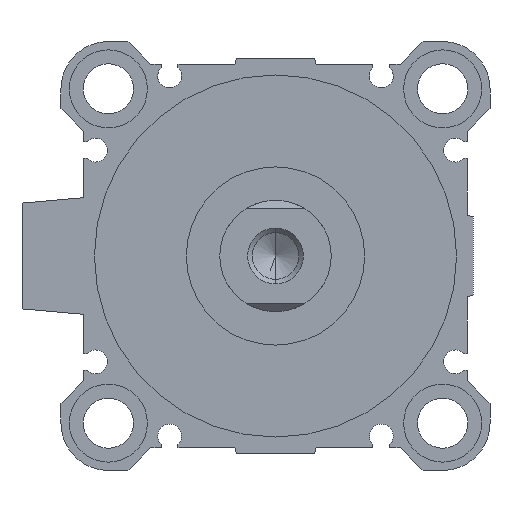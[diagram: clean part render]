
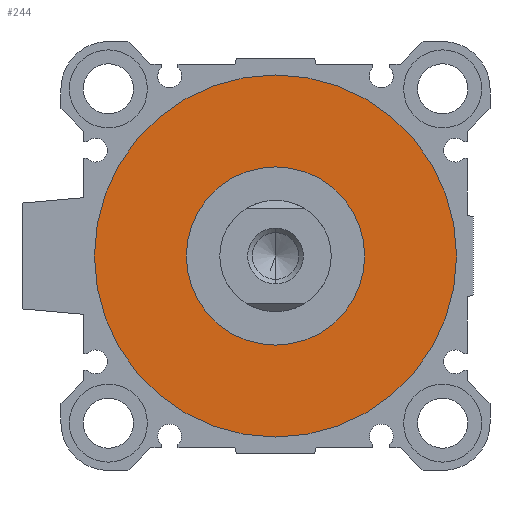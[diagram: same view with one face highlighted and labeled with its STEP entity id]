
A CAD part, left-side view. The second image highlights one B-rep face of the part: STEP entity #244.
In plain terms, the highlighted planar face has unit normal (-1, 0, 0).
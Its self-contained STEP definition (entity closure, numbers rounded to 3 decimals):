
#174 = CIRCLE ( 'NONE', #785, 16. ) ;
#244 = ADVANCED_FACE ( 'NONE', ( #1116, #4974 ), #1195, .F. ) ;
#298 = EDGE_CURVE ( 'NONE', #1267, #4576, #2254, .T. ) ;
#309 = ORIENTED_EDGE ( 'NONE', *, *, #487, .F. ) ;
#409 = ORIENTED_EDGE ( 'NONE', *, *, #298, .F. ) ;
#487 = EDGE_CURVE ( 'NONE', #4576, #1267, #1880, .T. ) ;
#614 = CARTESIAN_POINT ( 'NONE',  ( 4., 0., -16. ) ) ;
#647 = AXIS2_PLACEMENT_3D ( 'NONE', #5005, #1257, #4601 ) ;
#735 = EDGE_LOOP ( 'NONE', ( #309, #409 ) ) ;
#785 = AXIS2_PLACEMENT_3D ( 'NONE', #1578, #4506, #4429 ) ;
#1116 = FACE_OUTER_BOUND ( 'NONE', #735, .T. ) ;
#1142 = DIRECTION ( 'NONE',  ( 1., 0., 0. ) ) ;
#1167 = AXIS2_PLACEMENT_3D ( 'NONE', #2442, #4114, #5377 ) ;
#1195 = PLANE ( 'NONE',  #4460 ) ;
#1257 = DIRECTION ( 'NONE',  ( 1., 0., 0. ) ) ;
#1267 = VERTEX_POINT ( 'NONE', #4630 ) ;
#1487 = EDGE_CURVE ( 'NONE', #1532, #3942, #174, .T. ) ;
#1531 = CARTESIAN_POINT ( 'NONE',  ( 4., 0., 0. ) ) ;
#1532 = VERTEX_POINT ( 'NONE', #5355 ) ;
#1578 = CARTESIAN_POINT ( 'NONE',  ( 4., 0., 0. ) ) ;
#1764 = ORIENTED_EDGE ( 'NONE', *, *, #1487, .T. ) ;
#1880 = CIRCLE ( 'NONE', #647, 32.5 ) ;
#2053 = CARTESIAN_POINT ( 'NONE',  ( 4., 0., 0. ) ) ;
#2116 = EDGE_CURVE ( 'NONE', #3942, #1532, #4232, .T. ) ;
#2254 = CIRCLE ( 'NONE', #3927, 32.5 ) ;
#2379 = DIRECTION ( 'NONE',  ( 0., 0., -1. ) ) ;
#2442 = CARTESIAN_POINT ( 'NONE',  ( 4., 0., 0. ) ) ;
#2863 = DIRECTION ( 'NONE',  ( 1., 0., 0. ) ) ;
#3348 = ORIENTED_EDGE ( 'NONE', *, *, #2116, .T. ) ;
#3927 = AXIS2_PLACEMENT_3D ( 'NONE', #1531, #1142, #2379 ) ;
#3942 = VERTEX_POINT ( 'NONE', #614 ) ;
#4114 = DIRECTION ( 'NONE',  ( 1., 0., 0. ) ) ;
#4232 = CIRCLE ( 'NONE', #1167, 16. ) ;
#4429 = DIRECTION ( 'NONE',  ( 0., 0., -1. ) ) ;
#4460 = AXIS2_PLACEMENT_3D ( 'NONE', #2053, #2863, #4537 ) ;
#4506 = DIRECTION ( 'NONE',  ( 1., 0., 0. ) ) ;
#4537 = DIRECTION ( 'NONE',  ( 0., 1., 0. ) ) ;
#4576 = VERTEX_POINT ( 'NONE', #5378 ) ;
#4601 = DIRECTION ( 'NONE',  ( 0., 0., -1. ) ) ;
#4630 = CARTESIAN_POINT ( 'NONE',  ( 4., 0., -32.5 ) ) ;
#4778 = EDGE_LOOP ( 'NONE', ( #1764, #3348 ) ) ;
#4974 = FACE_BOUND ( 'NONE', #4778, .T. ) ;
#5005 = CARTESIAN_POINT ( 'NONE',  ( 4., 0., 0. ) ) ;
#5355 = CARTESIAN_POINT ( 'NONE',  ( 4., 0., 16. ) ) ;
#5377 = DIRECTION ( 'NONE',  ( 0., 0., -1. ) ) ;
#5378 = CARTESIAN_POINT ( 'NONE',  ( 4., 0., 32.5 ) ) ;
